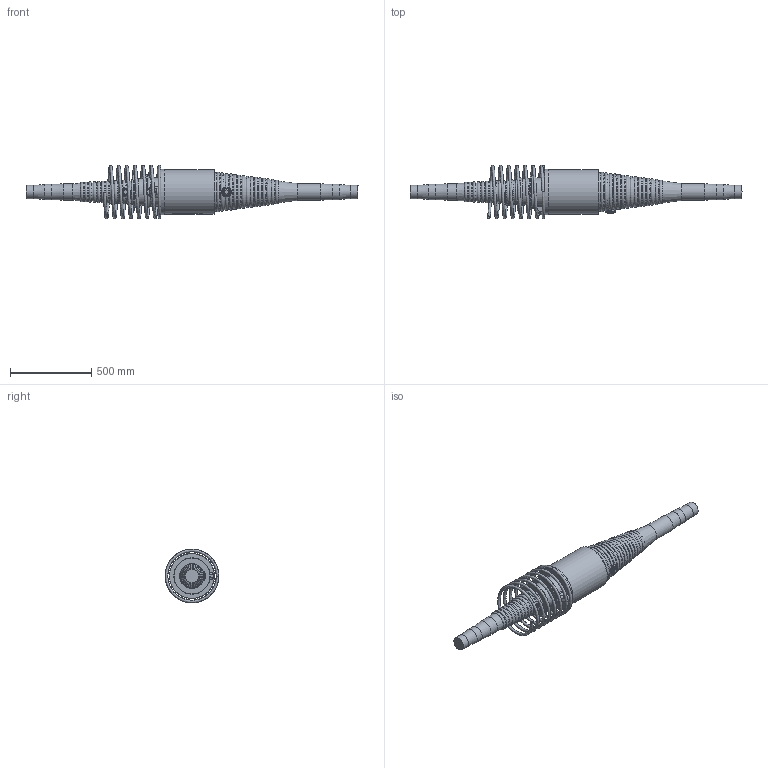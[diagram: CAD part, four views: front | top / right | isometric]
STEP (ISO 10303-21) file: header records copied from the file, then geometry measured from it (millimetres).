
FILE_DESCRIPTION(/* description */ (''),/* implementation_level */ '2;1');
FILE_NAME(/* name */ 'BBR VT CONA CMI BT 1906_Coupler H Assembly_CS-43,35_Helix.stp',/* time_stamp */ '2025-04-24T09:52:30+02:00',/* author */ ('tk'),/* organization */ (''),/* preprocessor_version */ 'ST-DEVELOPER v20',/* originating_system */ 'Autodesk Inventor 2024',/* authorisation */ '');
FILE_SCHEMA (('AUTOMOTIVE_DESIGN { 1 0 10303 214 3 1 1 }'));
Products named in the file (1): BBR VT CONA CMI BT 1906_Coupler H Assembly_CS-43,35_Helix
Bounding box: 2045.13 x 330 x 330 mm (x, y, z)
Volume: 47979544.5 mm3; surface area: 1549020.8 mm2
Topology: 2 solids, 2 shells, 991 faces, 2629 edges, 1709 vertices
Faces by surface type: bspline 405, plane 344, torus 107, cylinder 91, cone 34, sphere 10
Full cylindrical faces by diameter (mm): 34 x2, 57 x2, 84 x2, 94 x2, 104 x2, 164 x1, 218 x1, 223.017 x1, 273 x1, 280 x1
Entity records: 46410 total; most frequent: CARTESIAN_POINT 22930, ORIENTED_EDGE 5238, DIRECTION 3723, EDGE_CURVE 2619, VERTEX_POINT 1709, AXIS2_PLACEMENT_3D 1341, EDGE_LOOP 1070, LINE 1041
